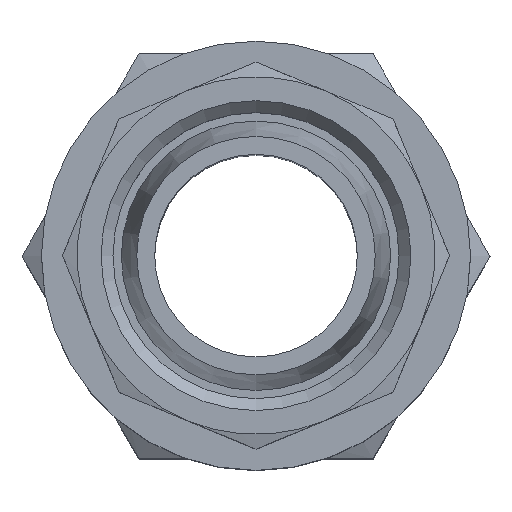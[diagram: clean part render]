
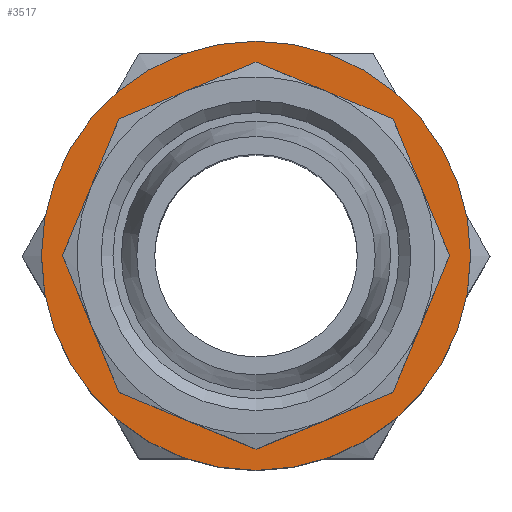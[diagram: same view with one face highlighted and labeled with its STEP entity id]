
A CAD part, top view. The second image highlights one B-rep face of the part: STEP entity #3517.
In plain terms, the highlighted planar face has unit normal (0, 0, 1) as drawn and (0, 1, 0) by its records, which use the part's own axes.
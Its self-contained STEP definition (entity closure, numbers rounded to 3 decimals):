
#1648=VECTOR('',#2925,1.);
#1651=VECTOR('',#2936,1.);
#1653=VECTOR('',#2946,1.);
#1655=VECTOR('',#2956,1.);
#1657=VECTOR('',#2966,1.);
#1659=VECTOR('',#2976,1.);
#1661=VECTOR('',#2986,1.);
#1662=VECTOR('',#2993,1.);
#1676=LINE('',#3724,#1648);
#1679=LINE('',#3733,#1651);
#1681=LINE('',#3741,#1653);
#1683=LINE('',#3749,#1655);
#1685=LINE('',#3757,#1657);
#1687=LINE('',#3765,#1659);
#1689=LINE('',#3773,#1661);
#1690=LINE('',#3777,#1662);
#1793=PLANE('',#3325);
#1994=ORIENTED_EDGE('',*,*,#2397,.T.);
#1995=ORIENTED_EDGE('',*,*,#2386,.F.);
#1996=ORIENTED_EDGE('',*,*,#2390,.F.);
#1997=ORIENTED_EDGE('',*,*,#2394,.F.);
#1998=ORIENTED_EDGE('',*,*,#2396,.F.);
#1999=ORIENTED_EDGE('',*,*,#2369,.F.);
#2000=ORIENTED_EDGE('',*,*,#2374,.F.);
#2001=ORIENTED_EDGE('',*,*,#2378,.F.);
#2002=ORIENTED_EDGE('',*,*,#2382,.F.);
#2161=CIRCLE('',#3326,9.);
#2242=VERTEX_POINT('',#3721);
#2243=VERTEX_POINT('',#3723);
#2245=VERTEX_POINT('',#3731);
#2247=VERTEX_POINT('',#3739);
#2249=VERTEX_POINT('',#3747);
#2251=VERTEX_POINT('',#3755);
#2253=VERTEX_POINT('',#3763);
#2255=VERTEX_POINT('',#3771);
#2256=VERTEX_POINT('',#3779);
#2369=EDGE_CURVE('',#2242,#2243,#1676,.T.);
#2374=EDGE_CURVE('',#2245,#2242,#1679,.T.);
#2378=EDGE_CURVE('',#2247,#2245,#1681,.T.);
#2382=EDGE_CURVE('',#2249,#2247,#1683,.T.);
#2386=EDGE_CURVE('',#2251,#2249,#1685,.T.);
#2390=EDGE_CURVE('',#2253,#2251,#1687,.T.);
#2394=EDGE_CURVE('',#2255,#2253,#1689,.T.);
#2396=EDGE_CURVE('',#2243,#2255,#1690,.T.);
#2397=EDGE_CURVE('',#2256,#2256,#2161,.T.);
#2526=EDGE_LOOP('',(#1994));
#2527=EDGE_LOOP('',(#1995,#1996,#1997,#1998,#1999,#2000,#2001,#2002));
#2654=FACE_BOUND('',#2526,.T.);
#2655=FACE_BOUND('',#2527,.T.);
#2925=DIRECTION('',(-5.74,0.,2.378));
#2936=DIRECTION('',(-5.74,0.,-2.378));
#2946=DIRECTION('',(-2.378,0.,-5.74));
#2956=DIRECTION('',(2.378,0.,-5.74));
#2966=DIRECTION('',(5.74,0.,-2.378));
#2976=DIRECTION('',(5.74,0.,2.378));
#2986=DIRECTION('',(2.378,0.,5.74));
#2993=DIRECTION('',(-2.378,0.,5.74));
#2994=DIRECTION('',(0.,1.,0.));
#2995=DIRECTION('',(1.,0.,0.));
#2996=DIRECTION('',(0.,1.,0.));
#2997=DIRECTION('',(0.,0.,-9.));
#3325=AXIS2_PLACEMENT_3D('',#3778,#2994,#2995);
#3326=AXIS2_PLACEMENT_3D('',#3780,#2996,#2997);
#3517=ADVANCED_FACE('',(#2654,#2655),#1793,.T.);
#3721=CARTESIAN_POINT('',(26.989,25.395,-8.118));
#3723=CARTESIAN_POINT('',(21.249,25.395,-5.74));
#3724=CARTESIAN_POINT('',(26.989,25.395,-8.118));
#3731=CARTESIAN_POINT('',(32.729,25.395,-5.74));
#3733=CARTESIAN_POINT('',(32.729,25.395,-5.74));
#3739=CARTESIAN_POINT('',(35.107,25.395,0.));
#3741=CARTESIAN_POINT('',(35.107,25.395,0.));
#3747=CARTESIAN_POINT('',(32.729,25.395,5.74));
#3749=CARTESIAN_POINT('',(32.729,25.395,5.74));
#3755=CARTESIAN_POINT('',(26.989,25.395,8.118));
#3757=CARTESIAN_POINT('',(26.989,25.395,8.118));
#3763=CARTESIAN_POINT('',(21.249,25.395,5.74));
#3765=CARTESIAN_POINT('',(21.249,25.395,5.74));
#3771=CARTESIAN_POINT('',(18.871,25.395,0.));
#3773=CARTESIAN_POINT('',(18.871,25.395,0.));
#3777=CARTESIAN_POINT('',(21.249,25.395,-5.74));
#3778=CARTESIAN_POINT('',(26.989,25.395,-9.));
#3779=CARTESIAN_POINT('',(26.989,25.395,-9.));
#3780=CARTESIAN_POINT('',(26.989,25.395,0.));
